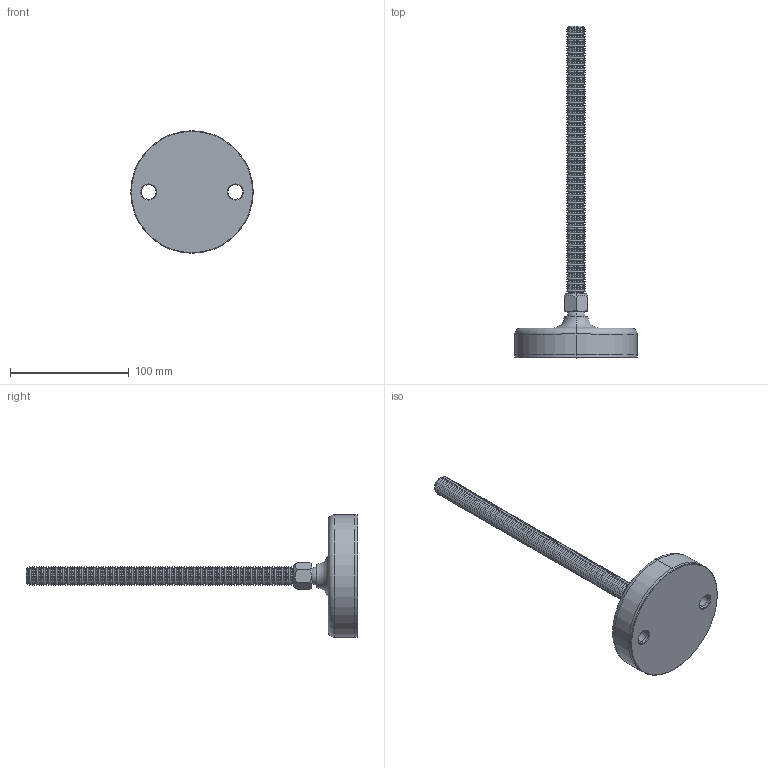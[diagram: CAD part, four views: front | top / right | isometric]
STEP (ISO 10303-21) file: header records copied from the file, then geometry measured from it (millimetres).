
FILE_DESCRIPTION (( 'STEP AP203' ), '1' );
FILE_NAME ('34724.W1704.step', '2019-11-28T22:15:11', ( '' ), ( '' ), 'SwSTEP 2.0', 'SolidWorks 2017', '' );
FILE_SCHEMA (( 'CONFIG_CONTROL_DESIGN' ));
Length unit declared in the file: millimetre
Products named in the file (4): 34724.W1704; Part1_34724.W1704; Part3_34724.W1704; Part2_34724.W1704
Assembly tree (3 placements, depth 2):
  34724.W1704
    Part1_34724.W1704
    Part2_34724.W1704
    Part3_34724.W1704
Bounding box: 103 x 279 x 103 mm (x, y, z)
Volume: 247062.8 mm3; surface area: 64183.6 mm2
Topology: 3 solids, 3 shells, 500 faces, 1015 edges, 521 vertices
Faces by surface type: cone 466, plane 14, cylinder 12, sphere 4, torus 4
Entity records: 13166 total; most frequent: DIRECTION 2516, CARTESIAN_POINT 2180, ORIENTED_EDGE 2012, AXIS2_PLACEMENT_3D 1016, EDGE_CURVE 1006, VERTEX_POINT 516, EDGE_LOOP 512, CIRCLE 510
